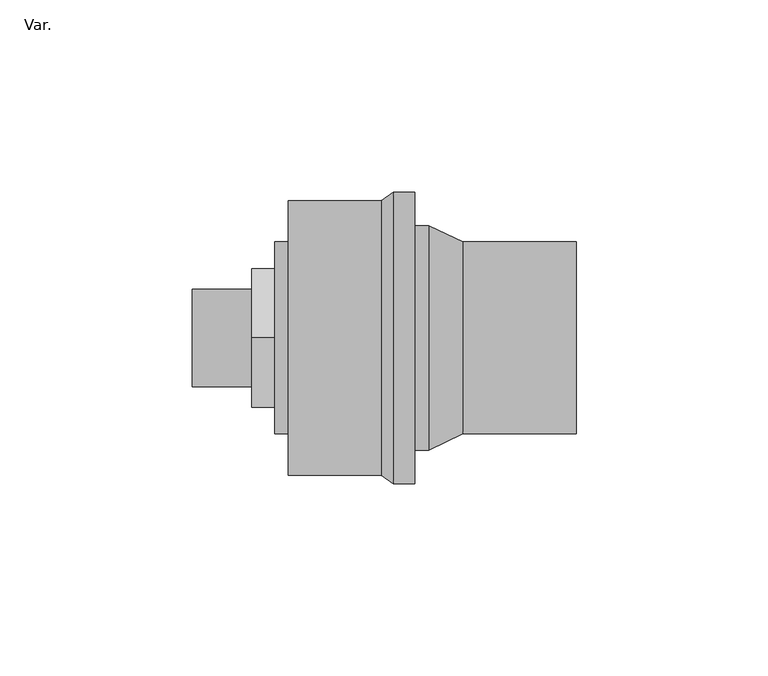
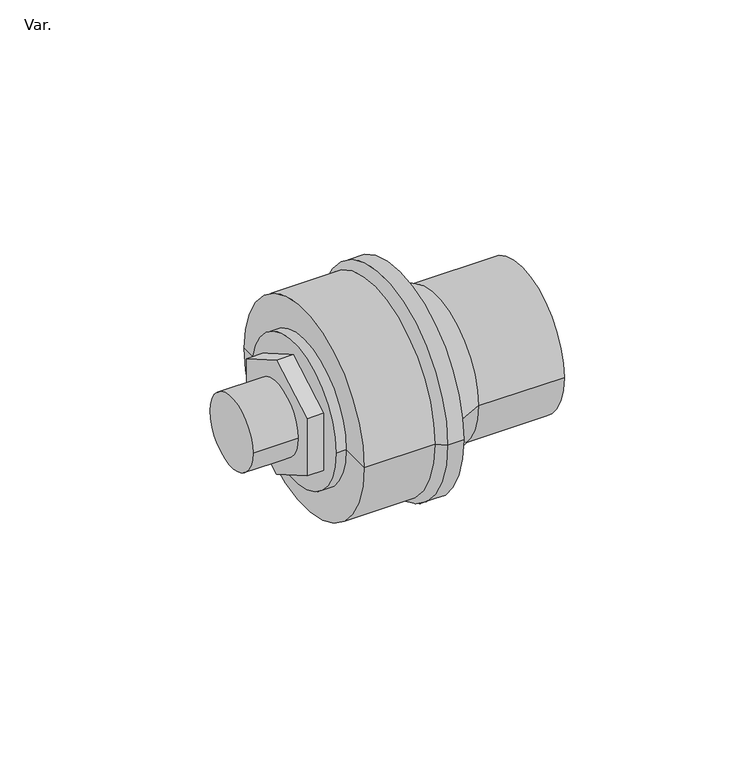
"""IFC4 building model written with IfcOpenShell, lengths in millimetres: pipe fitting geometry, PIF_HDPE threaded connector_Akatherm : Var.."""

from ifc_helpers import new_model, si_unit, point, frame, origin, origin_2d, place, context, project, spatial, polyline, circle_curve, trimmed, segment, composite_curve, outline, extrude, source, transform, mapped, element, save
from ifc_brep_helpers import plane_surface, cylinder_surface, revolved_surface, advanced_brep


def var_1d5090d4(model_context):
    return source(origin(), model_context, "Body", "SolidModel", [
        extrude(outline(composite_curve([segment(trimmed(circle_curve(origin_2d(), 12.7), [point((-12.7, 0.0))], [point((12.7, 0.0))], False, "CARTESIAN"), True, "CONTINUOUS"), segment(trimmed(circle_curve(origin_2d(), 12.7), [point((12.7, 0.0))], [point((-12.7, 0.0))], False, "CARTESIAN"), True, "CONTINUOUS")], self_intersect=False)), frame((-50.0, 0.0, 0.0), z_axis=(1.0, 0.0, 0.0), x_axis=(0.0, 1.0, 0.0)), (0.0, 0.0, 1.0), 15.5),
        extrude(outline(composite_curve([segment(trimmed(circle_curve(origin_2d(), 25.0), [point((-25.0, 0.0))], [point((25.0, 0.0))], False, "CARTESIAN"), True, "CONTINUOUS"), segment(trimmed(circle_curve(origin_2d(), 25.0), [point((25.0, 0.0))], [point((-25.0, 0.0))], False, "CARTESIAN"), True, "CONTINUOUS")], self_intersect=False)), frame((-28.5, 0.0, 0.0), z_axis=(1.0, 0.0, 0.0), x_axis=(0.0, 1.0, 0.0)), (0.0, 0.0, 1.0), 3.5),
        extrude(outline(polyline([(0.0, 20.7846097), (18.0, 10.3923048), (18.0, -10.3923048), (0.0, -20.7846097), (-18.0, -10.3923048), (-18.0, 10.3923048), (0.0, 20.7846097)])), frame((-34.5, 0.0, 0.0), z_axis=(1.0, 0.0, 0.0), x_axis=(0.0, 1.0, 0.0)), (0.0, 0.0, 1.0), 6.0),
        advanced_brep(
        [(50.0, -25.0, 0.0), (50.0, 25.0, 0.0), (50.0, 0.0, 0.0), (-25.0, 0.0, 0.0), (-25.0, 35.75, 0.0), (-25.0, -35.75, 0.0), (-0.7, 35.75, 0.0), (-0.7, -35.75, 0.0), (2.4, 38.0, 0.0), (2.4, -38.0, 0.0), (8.0, 38.0, 0.0), (8.0, -38.0, 0.0), (8.0, 29.25, 0.0), (8.0, -29.25, 0.0), (11.6, 29.25, 0.0), (11.6, -29.25, 0.0), (20.5, 25.0, 0.0), (20.5, -25.0, 0.0)],
        [
            (0, 1, circle_curve(frame((50.0, 0.0, 0.0), z_axis=(1.0, 0.0, 0.0), x_axis=(0.0, 1.0, 0.0)), 25.0)),
            (1, 2),
            (2, 0),
            (1, 0, circle_curve(frame((50.0, 0.0, 0.0), z_axis=(1.0, 0.0, 0.0), x_axis=(0.0, 1.0, 0.0)), 25.0)),
            (3, 4),
            (4, 5, circle_curve(frame((-25.0, 0.0, 0.0), z_axis=(-1.0, 0.0, 0.0), x_axis=(0.0, 1.0, 0.0)), 35.75)),
            (5, 3),
            (5, 4, circle_curve(frame((-25.0, 0.0, 0.0), z_axis=(-1.0, 0.0, 0.0), x_axis=(0.0, 1.0, 0.0)), 35.75)),
            (4, 6),
            (6, 7, circle_curve(frame((-0.7, 0.0, 0.0), z_axis=(-1.0, 0.0, 0.0), x_axis=(0.0, 1.0, 0.0)), 35.75)),
            (7, 5),
            (7, 6, circle_curve(frame((-0.7, 0.0, 0.0), z_axis=(-1.0, 0.0, 0.0), x_axis=(0.0, 1.0, 0.0)), 35.75)),
            (6, 8),
            (8, 9, circle_curve(frame((2.4, 0.0, 0.0), z_axis=(-1.0, 0.0, 0.0), x_axis=(0.0, 1.0, 0.0)), 38.0)),
            (9, 7),
            (9, 8, circle_curve(frame((2.4, 0.0, 0.0), z_axis=(-1.0, 0.0, 0.0), x_axis=(0.0, 1.0, 0.0)), 38.0)),
            (8, 10),
            (10, 11, circle_curve(frame((8.0, 0.0, 0.0), z_axis=(-1.0, 0.0, 0.0), x_axis=(0.0, 1.0, 0.0)), 38.0)),
            (11, 9),
            (11, 10, circle_curve(frame((8.0, 0.0, 0.0), z_axis=(-1.0, 0.0, 0.0), x_axis=(0.0, 1.0, 0.0)), 38.0)),
            (10, 12),
            (12, 13, circle_curve(frame((8.0, 0.0, 0.0), z_axis=(-1.0, 0.0, 0.0), x_axis=(0.0, 1.0, 0.0)), 29.25)),
            (13, 11),
            (13, 12, circle_curve(frame((8.0, 0.0, 0.0), z_axis=(-1.0, 0.0, 0.0), x_axis=(0.0, 1.0, 0.0)), 29.25)),
            (12, 14),
            (14, 15, circle_curve(frame((11.6, 0.0, 0.0), z_axis=(-1.0, 0.0, 0.0), x_axis=(0.0, 1.0, 0.0)), 29.25)),
            (15, 13),
            (15, 14, circle_curve(frame((11.6, 0.0, 0.0), z_axis=(-1.0, 0.0, 0.0), x_axis=(0.0, 1.0, 0.0)), 29.25)),
            (14, 16),
            (16, 17, circle_curve(frame((20.5, 0.0, 0.0), z_axis=(-1.0, 0.0, 0.0), x_axis=(0.0, 1.0, 0.0)), 25.0)),
            (17, 15),
            (17, 16, circle_curve(frame((20.5, 0.0, 0.0), z_axis=(-1.0, 0.0, 0.0), x_axis=(0.0, 1.0, 0.0)), 25.0)),
            (16, 1),
            (0, 17),
        ],
        [
            plane_surface(frame((50.0, 0.0, 0.0), z_axis=(1.0, 0.0, 0.0), x_axis=(0.0, 1.0, 0.0))),
            plane_surface(frame((-25.0, 0.0, 0.0), z_axis=(-1.0, 0.0, 0.0), x_axis=(0.0, 1.0, 0.0))),
            cylinder_surface(frame((-174.3223305, 0.0, 0.0), z_axis=(-1.0, 0.0, 0.0), x_axis=(0.0, 1.0, 0.0)), 35.75),
            revolved_surface(polyline([(2.4, 38.0, 0.0), (-0.7, 35.75, 0.0)]), (-174.3223305, 0.0, 0.0), (-1.0, 0.0, 0.0)),
            cylinder_surface(frame((-174.3223305, 0.0, 0.0), z_axis=(-1.0, 0.0, 0.0), x_axis=(0.0, 1.0, 0.0)), 38.0),
            plane_surface(frame((8.0, 0.0, 0.0), z_axis=(1.0, 0.0, 0.0), x_axis=(0.0, 1.0, 0.0))),
            cylinder_surface(frame((-174.3223305, 0.0, 0.0), z_axis=(-1.0, 0.0, 0.0), x_axis=(0.0, 1.0, 0.0)), 29.25),
            revolved_surface(polyline([(20.5, 25.0, 0.0), (11.6, 29.25, 0.0)]), (-174.3223305, 0.0, 0.0), (-1.0, 0.0, 0.0)),
            cylinder_surface(frame((-174.3223305, 0.0, 0.0), z_axis=(-1.0, 0.0, 0.0), x_axis=(0.0, 1.0, 0.0)), 25.0),
        ],
        [
            (0, [[1, 2, 3]]),
            (0, [[4, -3, -2]]),
            (1, [[5, 6, 7]]),
            (1, [[-7, 8, -5]]),
            (2, [[-6, 9, 10, 11]]),
            (2, [[-8, -11, 12, -9]]),
            (3, [[-10, 13, 14, 15]]),
            (3, [[-12, -15, 16, -13]]),
            (4, [[-14, 17, 18, 19]]),
            (4, [[-16, -19, 20, -17]]),
            (5, [[-18, 21, 22, 23]]),
            (5, [[-20, -23, 24, -21]]),
            (6, [[-22, 25, 26, 27]]),
            (6, [[-24, -27, 28, -25]]),
            (7, [[-26, 29, 30, 31]]),
            (7, [[-28, -31, 32, -29]]),
            (8, [[-30, 33, -1, 34]]),
            (8, [[-32, -34, -4, -33]]),
        ],
    ),
    ])


if __name__ == "__main__":
    model = new_model("IFC4")
    model_context = context("Model", 3, world=origin())
    ifc_project = project(units=[si_unit("LENGTHUNIT", "METRE", prefix="MILLI")], contexts=[model_context])
    site = spatial("IfcSite", under=ifc_project)
    building = spatial("IfcBuilding", under=site)
    placement = place(None, origin())
    var_shape = var_1d5090d4(model_context)
    element("IfcPipeFitting", 1, ObjectType="PIF_HDPE threaded connector_Akatherm : Var.", at=placement, inside=building, context=model_context, shape_type="MappedRepresentation", body=[
        mapped(var_shape, transform((0.0, 0.0, 0.0), x_axis=(1.0, 0.0, 0.0), y_axis=(0.0, 1.0, 0.0), z_axis=(0.0, 0.0, 1.0))),
    ])
    save(model, "model.ifc")
